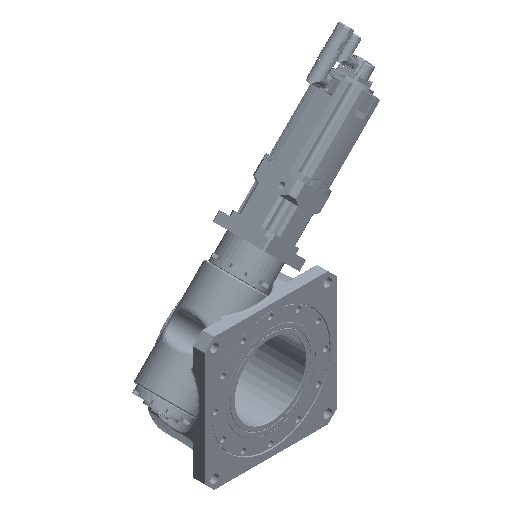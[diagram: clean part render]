
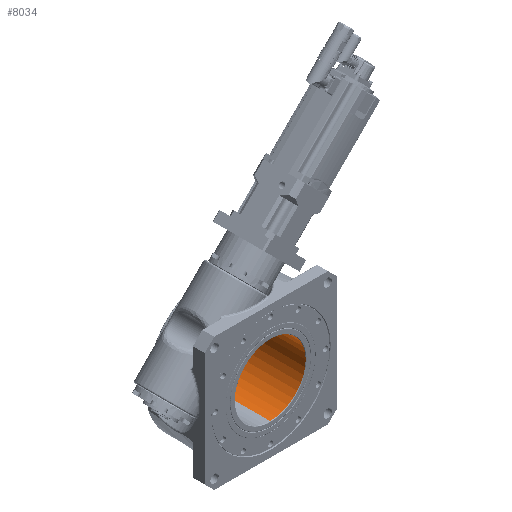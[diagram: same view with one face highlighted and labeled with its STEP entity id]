
A CAD part, isometric view. The second image highlights one B-rep face of the part: STEP entity #8034.
In plain terms, the highlighted cylindrical face has radius 75 mm (diameter 150 mm), a partial arc.
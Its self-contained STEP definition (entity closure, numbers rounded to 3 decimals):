
#1150 = EDGE_CURVE ( 'NONE', #14156, #121657, #169620, .T. ) ;
#1458 = AXIS2_PLACEMENT_3D ( 'NONE', #134118, #152833, #185182 ) ;
#7626 = CARTESIAN_POINT ( 'NONE',  ( 30.375, -65.911, 337.277 ) ) ;
#8034 = ADVANCED_FACE ( 'NONE', ( #34772 ), #98314, .F. ) ;
#8358 = DIRECTION ( 'NONE',  ( 0., 0., -1. ) ) ;
#14100 = AXIS2_PLACEMENT_3D ( 'NONE', #7626, #22250, #83746 ) ;
#14156 = VERTEX_POINT ( 'NONE', #73329 ) ;
#22250 = DIRECTION ( 'NONE',  ( 0., -1., 0. ) ) ;
#29998 = CARTESIAN_POINT ( 'NONE',  ( 30.375, -65.911, 412.277 ) ) ;
#34772 = FACE_OUTER_BOUND ( 'NONE', #137563, .T. ) ;
#47095 = EDGE_CURVE ( 'NONE', #156291, #108329, #78943, .T. ) ;
#49133 = ORIENTED_EDGE ( 'NONE', *, *, #47095, .F. ) ;
#52257 = EDGE_CURVE ( 'NONE', #14156, #156291, #143510, .T. ) ;
#56819 = ORIENTED_EDGE ( 'NONE', *, *, #181920, .F. ) ;
#61141 = CIRCLE ( 'NONE', #161084, 75. ) ;
#73329 = CARTESIAN_POINT ( 'NONE',  ( 30.375, 47.089, 262.277 ) ) ;
#73804 = CARTESIAN_POINT ( 'NONE',  ( 30.375, 47.089, 412.277 ) ) ;
#74228 = EDGE_CURVE ( 'NONE', #108329, #149126, #84757, .T. ) ;
#78943 = LINE ( 'NONE', #29998, #166047 ) ;
#79673 = DIRECTION ( 'NONE',  ( 0., 0., -1. ) ) ;
#83746 = DIRECTION ( 'NONE',  ( 0., 0., -1. ) ) ;
#84757 = CIRCLE ( 'NONE', #1458, 75. ) ;
#87580 = CARTESIAN_POINT ( 'NONE',  ( 30.375, 47.089, 337.277 ) ) ;
#97310 = CARTESIAN_POINT ( 'NONE',  ( 30.375, -60.911, 337.277 ) ) ;
#98314 = CYLINDRICAL_SURFACE ( 'NONE', #14100, 75. ) ;
#106350 = CARTESIAN_POINT ( 'NONE',  ( 30.375, -60.911, 262.277 ) ) ;
#108329 = VERTEX_POINT ( 'NONE', #204414 ) ;
#108778 = ORIENTED_EDGE ( 'NONE', *, *, #1150, .T. ) ;
#116042 = ORIENTED_EDGE ( 'NONE', *, *, #74228, .F. ) ;
#121657 = VERTEX_POINT ( 'NONE', #106350 ) ;
#122300 = VECTOR ( 'NONE', #155024, 1000. ) ;
#134118 = CARTESIAN_POINT ( 'NONE',  ( 30.375, -60.911, 337.277 ) ) ;
#135652 = CARTESIAN_POINT ( 'NONE',  ( 30.841, -60.911, 412.276 ) ) ;
#137563 = EDGE_LOOP ( 'NONE', ( #49133, #142719, #108778, #56819, #116042 ) ) ;
#142719 = ORIENTED_EDGE ( 'NONE', *, *, #52257, .F. ) ;
#143510 = CIRCLE ( 'NONE', #146782, 75. ) ;
#146782 = AXIS2_PLACEMENT_3D ( 'NONE', #87580, #151154, #8358 ) ;
#149126 = VERTEX_POINT ( 'NONE', #135652 ) ;
#151154 = DIRECTION ( 'NONE',  ( 0., -1., 0. ) ) ;
#152833 = DIRECTION ( 'NONE',  ( 0., 1., 0. ) ) ;
#152957 = CARTESIAN_POINT ( 'NONE',  ( 30.375, -65.911, 262.277 ) ) ;
#155024 = DIRECTION ( 'NONE',  ( 0., -1., 0. ) ) ;
#156291 = VERTEX_POINT ( 'NONE', #73804 ) ;
#157897 = DIRECTION ( 'NONE',  ( 0., 1., 0. ) ) ;
#160217 = DIRECTION ( 'NONE',  ( 0., -1., 0. ) ) ;
#161084 = AXIS2_PLACEMENT_3D ( 'NONE', #97310, #157897, #79673 ) ;
#166047 = VECTOR ( 'NONE', #160217, 1000. ) ;
#169620 = LINE ( 'NONE', #152957, #122300 ) ;
#181920 = EDGE_CURVE ( 'NONE', #149126, #121657, #61141, .T. ) ;
#185182 = DIRECTION ( 'NONE',  ( 0., 0., -1. ) ) ;
#204414 = CARTESIAN_POINT ( 'NONE',  ( 30.375, -60.911, 412.277 ) ) ;
